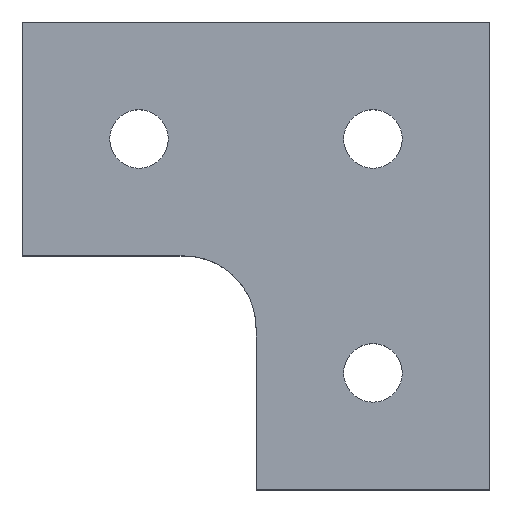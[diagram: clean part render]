
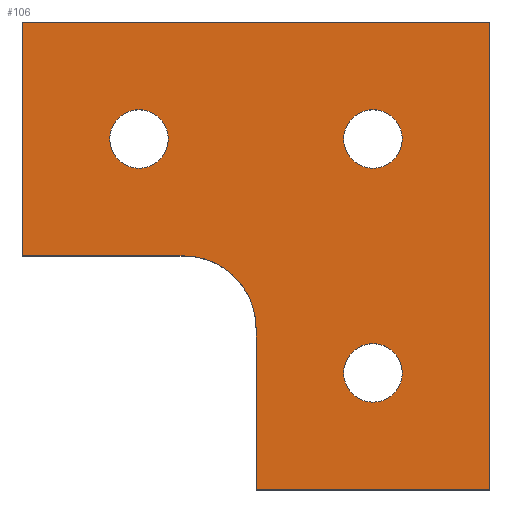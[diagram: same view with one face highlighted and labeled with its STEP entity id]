
A CAD part, top view. The second image highlights one B-rep face of the part: STEP entity #106.
In plain terms, the highlighted planar face has unit normal (0, 0, 1).
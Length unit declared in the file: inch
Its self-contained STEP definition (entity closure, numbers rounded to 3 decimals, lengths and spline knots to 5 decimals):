
#106=ADVANCED_FACE('',(#218,#219,#220,#221),#222,.T.);
#218=FACE_BOUND('',#426,.T.);
#219=FACE_BOUND('',#427,.T.);
#220=FACE_BOUND('',#428,.T.);
#221=FACE_OUTER_BOUND('',#429,.T.);
#222=PLANE('',#430);
#426=EDGE_LOOP('',(#659,#660,#661,#662));
#427=EDGE_LOOP('',(#663,#664,#665,#666));
#428=EDGE_LOOP('',(#667,#668,#669,#670));
#429=EDGE_LOOP('',(#671,#672,#673,#674,#675,#676,#677));
#430=AXIS2_PLACEMENT_3D('',#678,#679,#680);
#659=ORIENTED_EDGE('',*,*,#809,.F.);
#660=ORIENTED_EDGE('',*,*,#773,.F.);
#661=ORIENTED_EDGE('',*,*,#810,.F.);
#662=ORIENTED_EDGE('',*,*,#811,.F.);
#663=ORIENTED_EDGE('',*,*,#812,.F.);
#664=ORIENTED_EDGE('',*,*,#769,.F.);
#665=ORIENTED_EDGE('',*,*,#764,.F.);
#666=ORIENTED_EDGE('',*,*,#778,.F.);
#667=ORIENTED_EDGE('',*,*,#787,.F.);
#668=ORIENTED_EDGE('',*,*,#801,.F.);
#669=ORIENTED_EDGE('',*,*,#805,.F.);
#670=ORIENTED_EDGE('',*,*,#813,.F.);
#671=ORIENTED_EDGE('',*,*,#814,.F.);
#672=ORIENTED_EDGE('',*,*,#815,.F.);
#673=ORIENTED_EDGE('',*,*,#797,.F.);
#674=ORIENTED_EDGE('',*,*,#792,.F.);
#675=ORIENTED_EDGE('',*,*,#816,.F.);
#676=ORIENTED_EDGE('',*,*,#782,.F.);
#677=ORIENTED_EDGE('',*,*,#817,.F.);
#678=CARTESIAN_POINT('',(0.20473,1.82964,0.3752));
#679=DIRECTION('',(0.0,0.0,1.0));
#680=DIRECTION('',(1.0,0.0,0.0));
#764=EDGE_CURVE('',#843,#844,#845,.T.);
#769=EDGE_CURVE('',#844,#852,#853,.T.);
#773=EDGE_CURVE('',#858,#859,#860,.T.);
#778=EDGE_CURVE('',#867,#843,#868,.T.);
#782=EDGE_CURVE('',#873,#874,#875,.T.);
#787=EDGE_CURVE('',#882,#883,#884,.T.);
#792=EDGE_CURVE('',#891,#892,#893,.T.);
#797=EDGE_CURVE('',#892,#900,#901,.T.);
#801=EDGE_CURVE('',#906,#882,#907,.T.);
#805=EDGE_CURVE('',#912,#906,#913,.T.);
#809=EDGE_CURVE('',#859,#918,#919,.T.);
#810=EDGE_CURVE('',#920,#858,#921,.T.);
#811=EDGE_CURVE('',#918,#920,#922,.T.);
#812=EDGE_CURVE('',#852,#867,#923,.T.);
#813=EDGE_CURVE('',#883,#912,#924,.T.);
#814=EDGE_CURVE('',#925,#926,#927,.T.);
#815=EDGE_CURVE('',#900,#925,#928,.T.);
#816=EDGE_CURVE('',#874,#891,#929,.T.);
#817=EDGE_CURVE('',#926,#873,#930,.T.);
#843=VERTEX_POINT('',#960);
#844=VERTEX_POINT('',#961);
#845=B_SPLINE_CURVE_WITH_KNOTS('',3,(#962,#963,#964,#965),.UNSPECIFIED.,.F.,.F.,(4,4),(-1.0,-0.0),.UNSPECIFIED.);
#852=VERTEX_POINT('',#977);
#853=B_SPLINE_CURVE_WITH_KNOTS('',3,(#978,#979,#980,#981),.UNSPECIFIED.,.F.,.F.,(4,4),(-1.0,-0.0),.UNSPECIFIED.);
#858=VERTEX_POINT('',#990);
#859=VERTEX_POINT('',#991);
#860=B_SPLINE_CURVE_WITH_KNOTS('',3,(#992,#993,#994,#995),.UNSPECIFIED.,.F.,.F.,(4,4),(-1.0,-0.0),.UNSPECIFIED.);
#867=VERTEX_POINT('',#1007);
#868=B_SPLINE_CURVE_WITH_KNOTS('',3,(#1008,#1009,#1010,#1011),.UNSPECIFIED.,.F.,.F.,(4,4),(-1.0,-0.0),.UNSPECIFIED.);
#873=VERTEX_POINT('',#1020);
#874=VERTEX_POINT('',#1021);
#875=LINE('',#1022,#1023);
#882=VERTEX_POINT('',#1033);
#883=VERTEX_POINT('',#1034);
#884=B_SPLINE_CURVE_WITH_KNOTS('',3,(#1035,#1036,#1037,#1038),.UNSPECIFIED.,.F.,.F.,(4,4),(-1.0,-0.0),.UNSPECIFIED.);
#891=VERTEX_POINT('',#1050);
#892=VERTEX_POINT('',#1051);
#893=LINE('',#1052,#1053);
#900=VERTEX_POINT('',#1063);
#901=LINE('',#1064,#1065);
#906=VERTEX_POINT('',#1072);
#907=B_SPLINE_CURVE_WITH_KNOTS('',3,(#1073,#1074,#1075,#1076),.UNSPECIFIED.,.F.,.F.,(4,4),(-1.0,-0.0),.UNSPECIFIED.);
#912=VERTEX_POINT('',#1085);
#913=B_SPLINE_CURVE_WITH_KNOTS('',3,(#1086,#1087,#1088,#1089),.UNSPECIFIED.,.F.,.F.,(4,4),(-1.0,-0.0),.UNSPECIFIED.);
#918=VERTEX_POINT('',#1098);
#919=B_SPLINE_CURVE_WITH_KNOTS('',3,(#1099,#1100,#1101,#1102),.UNSPECIFIED.,.F.,.F.,(4,4),(-1.0,-0.0),.UNSPECIFIED.);
#920=VERTEX_POINT('',#1103);
#921=B_SPLINE_CURVE_WITH_KNOTS('',3,(#1104,#1105,#1106,#1107),.UNSPECIFIED.,.F.,.F.,(4,4),(-1.0,-0.0),.UNSPECIFIED.);
#922=B_SPLINE_CURVE_WITH_KNOTS('',3,(#1108,#1109,#1110,#1111),.UNSPECIFIED.,.F.,.F.,(4,4),(-1.0,-0.0),.UNSPECIFIED.);
#923=B_SPLINE_CURVE_WITH_KNOTS('',3,(#1112,#1113,#1114,#1115),.UNSPECIFIED.,.F.,.F.,(4,4),(-1.0,-0.0),.UNSPECIFIED.);
#924=B_SPLINE_CURVE_WITH_KNOTS('',3,(#1116,#1117,#1118,#1119),.UNSPECIFIED.,.F.,.F.,(4,4),(-1.0,-0.0),.UNSPECIFIED.);
#925=VERTEX_POINT('',#1120);
#926=VERTEX_POINT('',#1121);
#927=LINE('',#1122,#1123);
#928=LINE('',#1124,#1125);
#929=B_SPLINE_CURVE_WITH_KNOTS('',3,(#1126,#1127,#1128,#1129),.UNSPECIFIED.,.F.,.F.,(4,4),(-1.0,-0.0),.UNSPECIFIED.);
#930=LINE('',#1130,#1131);
#960=CARTESIAN_POINT('',(-1.01569,2.43728,0.3752));
#961=CARTESIAN_POINT('',(-0.81253,2.2341,0.3752));
#962=CARTESIAN_POINT('',(-1.01569,2.43728,0.3752));
#963=CARTESIAN_POINT('',(-1.01569,2.32514,0.3752));
#964=CARTESIAN_POINT('',(-0.92467,2.2341,0.3752));
#965=CARTESIAN_POINT('',(-0.81253,2.2341,0.3752));
#977=CARTESIAN_POINT('',(-0.60936,2.43728,0.3752));
#978=CARTESIAN_POINT('',(-0.81253,2.2341,0.3752));
#979=CARTESIAN_POINT('',(-0.70037,2.2341,0.3752));
#980=CARTESIAN_POINT('',(-0.60936,2.32514,0.3752));
#981=CARTESIAN_POINT('',(-0.60936,2.43728,0.3752));
#990=CARTESIAN_POINT('',(0.81247,2.2341,0.3752));
#991=CARTESIAN_POINT('',(1.01565,2.43728,0.3752));
#992=CARTESIAN_POINT('',(0.81247,2.2341,0.3752));
#993=CARTESIAN_POINT('',(0.92463,2.2341,0.3752));
#994=CARTESIAN_POINT('',(1.01565,2.32514,0.3752));
#995=CARTESIAN_POINT('',(1.01565,2.43728,0.3752));
#1007=CARTESIAN_POINT('',(-0.81253,2.64045,0.3752));
#1008=CARTESIAN_POINT('',(-0.81253,2.64045,0.3752));
#1009=CARTESIAN_POINT('',(-0.92467,2.64045,0.3752));
#1010=CARTESIAN_POINT('',(-1.01569,2.54943,0.3752));
#1011=CARTESIAN_POINT('',(-1.01569,2.43728,0.3752));
#1020=CARTESIAN_POINT('',(0.,0.0,0.3752));
#1021=CARTESIAN_POINT('',(0.,1.12485,0.3752));
#1022=CARTESIAN_POINT('',(0.,1.12485,0.3752));
#1023=VECTOR('',#1191,1.0);
#1033=CARTESIAN_POINT('',(1.01565,0.81249,0.3752));
#1034=CARTESIAN_POINT('',(0.81247,1.01567,0.3752));
#1035=CARTESIAN_POINT('',(1.01565,0.81249,0.3752));
#1036=CARTESIAN_POINT('',(1.01565,0.92464,0.3752));
#1037=CARTESIAN_POINT('',(0.92463,1.01567,0.3752));
#1038=CARTESIAN_POINT('',(0.81247,1.01567,0.3752));
#1050=CARTESIAN_POINT('',(-0.49995,1.6248,0.3752));
#1051=CARTESIAN_POINT('',(-1.62501,1.6248,0.3752));
#1052=CARTESIAN_POINT('',(-1.62501,1.6248,0.3752));
#1053=VECTOR('',#1197,1.0);
#1063=CARTESIAN_POINT('',(-1.62501,3.24977,0.3752));
#1064=CARTESIAN_POINT('',(-1.62501,3.24977,0.3752));
#1065=VECTOR('',#1201,1.0);
#1072=CARTESIAN_POINT('',(0.81247,0.60932,0.3752));
#1073=CARTESIAN_POINT('',(0.81247,0.60932,0.3752));
#1074=CARTESIAN_POINT('',(0.92463,0.60932,0.3752));
#1075=CARTESIAN_POINT('',(1.01565,0.70034,0.3752));
#1076=CARTESIAN_POINT('',(1.01565,0.81249,0.3752));
#1085=CARTESIAN_POINT('',(0.60931,0.81249,0.3752));
#1086=CARTESIAN_POINT('',(0.60931,0.81249,0.3752));
#1087=CARTESIAN_POINT('',(0.60931,0.70034,0.3752));
#1088=CARTESIAN_POINT('',(0.70033,0.60932,0.3752));
#1089=CARTESIAN_POINT('',(0.81247,0.60932,0.3752));
#1098=CARTESIAN_POINT('',(0.81247,2.64045,0.3752));
#1099=CARTESIAN_POINT('',(1.01565,2.43728,0.3752));
#1100=CARTESIAN_POINT('',(1.01565,2.54943,0.3752));
#1101=CARTESIAN_POINT('',(0.92463,2.64045,0.3752));
#1102=CARTESIAN_POINT('',(0.81247,2.64045,0.3752));
#1103=CARTESIAN_POINT('',(0.60931,2.43728,0.3752));
#1104=CARTESIAN_POINT('',(0.60931,2.43728,0.3752));
#1105=CARTESIAN_POINT('',(0.60931,2.32514,0.3752));
#1106=CARTESIAN_POINT('',(0.70033,2.2341,0.3752));
#1107=CARTESIAN_POINT('',(0.81247,2.2341,0.3752));
#1108=CARTESIAN_POINT('',(0.81247,2.64045,0.3752));
#1109=CARTESIAN_POINT('',(0.70033,2.64045,0.3752));
#1110=CARTESIAN_POINT('',(0.60931,2.54943,0.3752));
#1111=CARTESIAN_POINT('',(0.60931,2.43728,0.3752));
#1112=CARTESIAN_POINT('',(-0.60936,2.43728,0.3752));
#1113=CARTESIAN_POINT('',(-0.60936,2.54943,0.3752));
#1114=CARTESIAN_POINT('',(-0.70037,2.64045,0.3752));
#1115=CARTESIAN_POINT('',(-0.81253,2.64045,0.3752));
#1116=CARTESIAN_POINT('',(0.81247,1.01567,0.3752));
#1117=CARTESIAN_POINT('',(0.70033,1.01567,0.3752));
#1118=CARTESIAN_POINT('',(0.60931,0.92464,0.3752));
#1119=CARTESIAN_POINT('',(0.60931,0.81249,0.3752));
#1120=CARTESIAN_POINT('',(1.62497,3.24977,0.3752));
#1121=CARTESIAN_POINT('',(1.62497,0.0,0.3752));
#1122=CARTESIAN_POINT('',(1.62497,0.0,0.3752));
#1123=VECTOR('',#1206,1.0);
#1124=CARTESIAN_POINT('',(1.62497,3.24977,0.3752));
#1125=VECTOR('',#1207,1.0);
#1126=CARTESIAN_POINT('',(0.,1.12485,0.3752));
#1127=CARTESIAN_POINT('',(0.,1.40083,0.3752));
#1128=CARTESIAN_POINT('',(-0.22398,1.6248,0.3752));
#1129=CARTESIAN_POINT('',(-0.49995,1.6248,0.3752));
#1130=CARTESIAN_POINT('',(0.,0.0,0.3752));
#1131=VECTOR('',#1208,1.0);
#1191=DIRECTION('',(0.0,1.0,0.0));
#1197=DIRECTION('',(-1.0,-0.0,-0.0));
#1201=DIRECTION('',(0.0,1.0,0.0));
#1206=DIRECTION('',(-0.0,-1.0,-0.0));
#1207=DIRECTION('',(1.0,0.0,0.0));
#1208=DIRECTION('',(-1.0,-0.0,-0.0));
